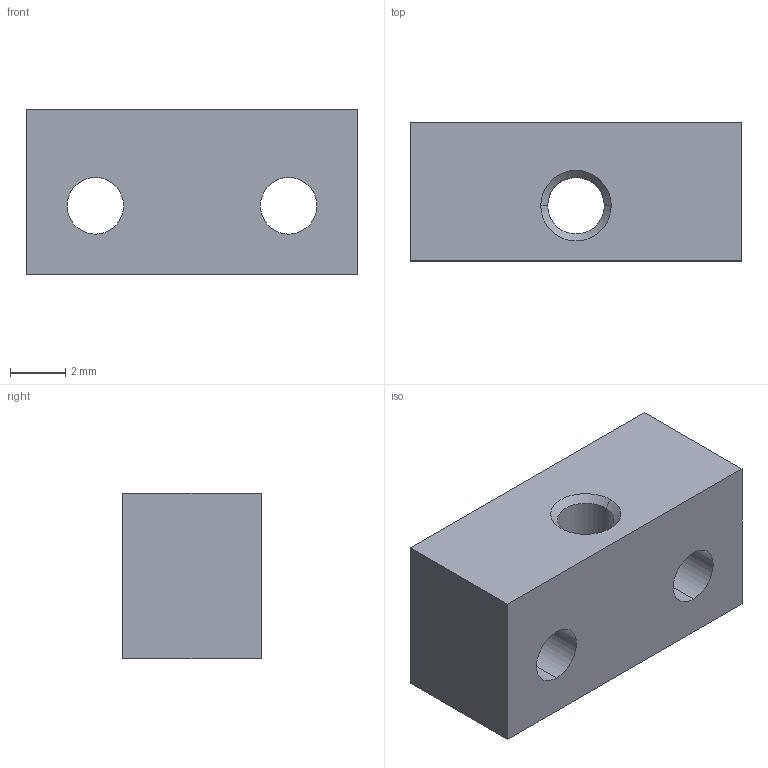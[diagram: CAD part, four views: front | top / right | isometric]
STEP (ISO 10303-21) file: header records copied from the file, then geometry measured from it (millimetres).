
FILE_DESCRIPTION (( 'STEP AP203' ), '1' );
FILE_NAME ('菜輸5.STEP', '2026-09-24T09:27:58', ( '' ), ( '' ), 'SwSTEP 2.0', 'SolidWorks 2016', '' );
FILE_SCHEMA (( 'CONFIG_CONTROL_DESIGN' ));
Length unit declared in the file: millimetre
Products named in the file (1): 菜輸5
Bounding box: 12 x 5 x 6 mm (x, y, z)
Volume: 306.5 mm3; surface area: 404.7 mm2
Topology: 1 solids, 1 shells, 18 faces, 42 edges, 26 vertices
Faces by surface type: cone 6, cylinder 6, plane 6
Entity records: 605 total; most frequent: DIRECTION 98, CARTESIAN_POINT 87, ORIENTED_EDGE 84, EDGE_CURVE 42, AXIS2_PLACEMENT_3D 37, VERTEX_POINT 26, LINE 24, VECTOR 24
